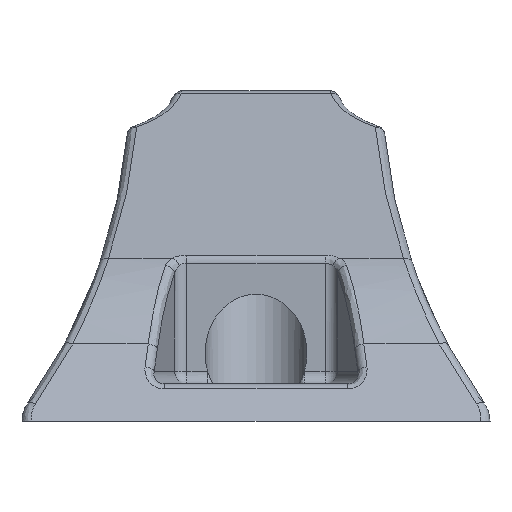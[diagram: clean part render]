
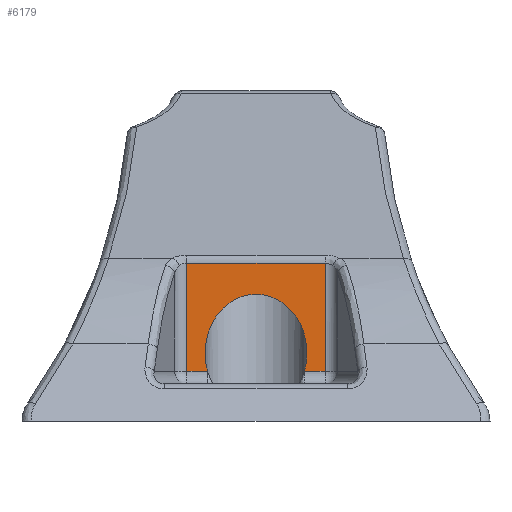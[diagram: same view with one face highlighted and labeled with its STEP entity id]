
A CAD part, left-side view. The second image highlights one B-rep face of the part: STEP entity #6179.
In plain terms, the highlighted planar face has unit normal (-1, 0, 0).
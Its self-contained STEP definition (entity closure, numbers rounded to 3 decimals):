
#1258 = CYLINDRICAL_SURFACE('',#1259,8.05);
#1259 = AXIS2_PLACEMENT_3D('',#1260,#1261,#1262);
#1260 = CARTESIAN_POINT('',(14.893,0.,52.567));
#1261 = DIRECTION('',(0.866,0.,0.5));
#1262 = DIRECTION('',(0.,1.,0.));
#1728 = CYLINDRICAL_SURFACE('',#1729,1.5);
#1729 = AXIS2_PLACEMENT_3D('',#1730,#1731,#1732);
#1730 = CARTESIAN_POINT('',(-24.796,10.938,
    42.989));
#1731 = DIRECTION('',(0.,-1.,0.));
#1732 = DIRECTION('',(-0.5,0.,0.866));
#3002 = EDGE_CURVE('',#3003,#3005,#3007,.T.);
#3003 = VERTEX_POINT('',#3004);
#3004 = CARTESIAN_POINT('',(-26.296,7.652,25.9
    ));
#3005 = VERTEX_POINT('',#3006);
#3006 = CARTESIAN_POINT('',(-26.296,8.05,28.786));
#3007 = SURFACE_CURVE('',#3008,(#3013,#3023),.PCURVE_S1.);
#3008 = ELLIPSE('',#3009,9.295,8.05);
#3009 = AXIS2_PLACEMENT_3D('',#3010,#3011,#3012);
#3010 = CARTESIAN_POINT('',(-26.296,0.,28.786));
#3011 = DIRECTION('',(1.,0.,-0.));
#3012 = DIRECTION('',(0.,0.,1.));
#3013 = PCURVE('',#1258,#3014);
#3014 = DEFINITIONAL_REPRESENTATION('',(#3015),#3022);
#3015 = B_SPLINE_CURVE_WITH_KNOTS('',5,(#3016,#3017,#3018,#3019,#3020,
    #3021),.UNSPECIFIED.,.F.,.F.,(6,6),(4.16,4.712),
  .PIECEWISE_BEZIER_KNOTS.);
#3016 = CARTESIAN_POINT('',(5.731,-50.));
#3017 = CARTESIAN_POINT('',(5.841,-49.563));
#3018 = CARTESIAN_POINT('',(5.952,-49.089));
#3019 = CARTESIAN_POINT('',(6.062,-48.588));
#3020 = CARTESIAN_POINT('',(6.173,-48.074));
#3021 = CARTESIAN_POINT('',(6.283,-47.561));
#3022 = ( GEOMETRIC_REPRESENTATION_CONTEXT(2) 
PARAMETRIC_REPRESENTATION_CONTEXT() REPRESENTATION_CONTEXT('2D SPACE',''
  ) );
#3023 = PCURVE('',#3024,#3029);
#3024 = PLANE('',#3025);
#3025 = AXIS2_PLACEMENT_3D('',#3026,#3027,#3028);
#3026 = CARTESIAN_POINT('',(-26.296,-12.5,78.));
#3027 = DIRECTION('',(1.,0.,0.));
#3028 = DIRECTION('',(0.,1.,0.));
#3029 = DEFINITIONAL_REPRESENTATION('',(#3030),#3034);
#3030 = ELLIPSE('',#3031,9.295,8.05);
#3031 = AXIS2_PLACEMENT_2D('',#3032,#3033);
#3032 = CARTESIAN_POINT('',(12.5,-49.214));
#3033 = DIRECTION('',(0.,1.));
#3034 = ( GEOMETRIC_REPRESENTATION_CONTEXT(2) 
PARAMETRIC_REPRESENTATION_CONTEXT() REPRESENTATION_CONTEXT('2D SPACE',''
  ) );
#3059 = EDGE_CURVE('',#3005,#3060,#3062,.T.);
#3060 = VERTEX_POINT('',#3061);
#3061 = CARTESIAN_POINT('',(-26.296,-7.652,25.9));
#3062 = SURFACE_CURVE('',#3063,(#3068,#3088),.PCURVE_S1.);
#3063 = ELLIPSE('',#3064,9.295,8.05);
#3064 = AXIS2_PLACEMENT_3D('',#3065,#3066,#3067);
#3065 = CARTESIAN_POINT('',(-26.296,0.,28.786));
#3066 = DIRECTION('',(1.,0.,-0.));
#3067 = DIRECTION('',(0.,0.,1.));
#3068 = PCURVE('',#1258,#3069);
#3069 = DEFINITIONAL_REPRESENTATION('',(#3070),#3087);
#3070 = B_SPLINE_CURVE_WITH_KNOTS('',8,(#3071,#3072,#3073,#3074,#3075,
    #3076,#3077,#3078,#3079,#3080,#3081,#3082,#3083,#3084,#3085,#3086),
  .UNSPECIFIED.,.F.,.F.,(9,7,9),(4.712,6.559,
    8.407),.UNSPECIFIED.);
#3071 = CARTESIAN_POINT('',(0.,-47.561));
#3072 = CARTESIAN_POINT('',(0.231,-46.488));
#3073 = CARTESIAN_POINT('',(0.462,-45.415));
#3074 = CARTESIAN_POINT('',(0.693,-44.429));
#3075 = CARTESIAN_POINT('',(0.924,-43.617));
#3076 = CARTESIAN_POINT('',(1.154,-43.052));
#3077 = CARTESIAN_POINT('',(1.385,-42.776));
#3078 = CARTESIAN_POINT('',(1.616,-42.797));
#3079 = CARTESIAN_POINT('',(2.078,-43.382));
#3080 = CARTESIAN_POINT('',(2.309,-43.947));
#3081 = CARTESIAN_POINT('',(2.54,-44.761));
#3082 = CARTESIAN_POINT('',(2.771,-45.769));
#3083 = CARTESIAN_POINT('',(3.001,-46.888));
#3084 = CARTESIAN_POINT('',(3.232,-48.025));
#3085 = CARTESIAN_POINT('',(3.463,-49.087));
#3086 = CARTESIAN_POINT('',(3.694,-50.));
#3087 = ( GEOMETRIC_REPRESENTATION_CONTEXT(2) 
PARAMETRIC_REPRESENTATION_CONTEXT() REPRESENTATION_CONTEXT('2D SPACE',''
  ) );
#3088 = PCURVE('',#3024,#3089);
#3089 = DEFINITIONAL_REPRESENTATION('',(#3090),#3094);
#3090 = ELLIPSE('',#3091,9.295,8.05);
#3091 = AXIS2_PLACEMENT_2D('',#3092,#3093);
#3092 = CARTESIAN_POINT('',(12.5,-49.214));
#3093 = DIRECTION('',(0.,1.));
#3094 = ( GEOMETRIC_REPRESENTATION_CONTEXT(2) 
PARAMETRIC_REPRESENTATION_CONTEXT() REPRESENTATION_CONTEXT('2D SPACE',''
  ) );
#4186 = VERTEX_POINT('',#4187);
#4187 = CARTESIAN_POINT('',(-26.296,-10.938,
    42.989));
#4257 = CYLINDRICAL_SURFACE('',#4258,2.);
#4258 = AXIS2_PLACEMENT_3D('',#4259,#4260,#4261);
#4259 = CARTESIAN_POINT('',(-28.296,-10.938,
    43.855));
#4260 = DIRECTION('',(-0.,-0.,-1.));
#4261 = DIRECTION('',(0.243,-0.97,0.));
#4350 = VERTEX_POINT('',#4351);
#4351 = CARTESIAN_POINT('',(-26.296,10.938,
    42.989));
#4377 = EDGE_CURVE('',#4350,#4186,#4378,.T.);
#4378 = SURFACE_CURVE('',#4379,(#4383,#4390),.PCURVE_S1.);
#4379 = LINE('',#4380,#4381);
#4380 = CARTESIAN_POINT('',(-26.296,10.938,
    42.989));
#4381 = VECTOR('',#4382,1.);
#4382 = DIRECTION('',(0.,-1.,0.));
#4383 = PCURVE('',#1728,#4384);
#4384 = DEFINITIONAL_REPRESENTATION('',(#4385),#4389);
#4385 = LINE('',#4386,#4387);
#4386 = CARTESIAN_POINT('',(1.047,0.));
#4387 = VECTOR('',#4388,1.);
#4388 = DIRECTION('',(0.,1.));
#4389 = ( GEOMETRIC_REPRESENTATION_CONTEXT(2) 
PARAMETRIC_REPRESENTATION_CONTEXT() REPRESENTATION_CONTEXT('2D SPACE',''
  ) );
#4390 = PCURVE('',#3024,#4391);
#4391 = DEFINITIONAL_REPRESENTATION('',(#4392),#4396);
#4392 = LINE('',#4393,#4394);
#4393 = CARTESIAN_POINT('',(23.438,-35.011));
#4394 = VECTOR('',#4395,1.);
#4395 = DIRECTION('',(-1.,0.));
#4396 = ( GEOMETRIC_REPRESENTATION_CONTEXT(2) 
PARAMETRIC_REPRESENTATION_CONTEXT() REPRESENTATION_CONTEXT('2D SPACE',''
  ) );
#4523 = CYLINDRICAL_SURFACE('',#4524,2.);
#4524 = AXIS2_PLACEMENT_3D('',#4525,#4526,#4527);
#4525 = CARTESIAN_POINT('',(-28.296,10.938,
    43.855));
#4526 = DIRECTION('',(-0.,-0.,-1.));
#4527 = DIRECTION('',(1.,0.,0.));
#6179 = ADVANCED_FACE('',(#6180),#3024,.F.);
#6180 = FACE_BOUND('',#6181,.F.);
#6181 = EDGE_LOOP('',(#6182,#6205,#6206,#6229,#6255,#6256,#6257));
#6182 = ORIENTED_EDGE('',*,*,#6183,.F.);
#6183 = EDGE_CURVE('',#4350,#6184,#6186,.T.);
#6184 = VERTEX_POINT('',#6185);
#6185 = CARTESIAN_POINT('',(-26.296,10.938,25.9));
#6186 = SURFACE_CURVE('',#6187,(#6191,#6198),.PCURVE_S1.);
#6187 = LINE('',#6188,#6189);
#6188 = CARTESIAN_POINT('',(-26.296,10.938,
    43.855));
#6189 = VECTOR('',#6190,1.);
#6190 = DIRECTION('',(-0.,-0.,-1.));
#6191 = PCURVE('',#3024,#6192);
#6192 = DEFINITIONAL_REPRESENTATION('',(#6193),#6197);
#6193 = LINE('',#6194,#6195);
#6194 = CARTESIAN_POINT('',(23.438,-34.145));
#6195 = VECTOR('',#6196,1.);
#6196 = DIRECTION('',(0.,-1.));
#6197 = ( GEOMETRIC_REPRESENTATION_CONTEXT(2) 
PARAMETRIC_REPRESENTATION_CONTEXT() REPRESENTATION_CONTEXT('2D SPACE',''
  ) );
#6198 = PCURVE('',#4523,#6199);
#6199 = DEFINITIONAL_REPRESENTATION('',(#6200),#6204);
#6200 = LINE('',#6201,#6202);
#6201 = CARTESIAN_POINT('',(-0.,0.));
#6202 = VECTOR('',#6203,1.);
#6203 = DIRECTION('',(-0.,1.));
#6204 = ( GEOMETRIC_REPRESENTATION_CONTEXT(2) 
PARAMETRIC_REPRESENTATION_CONTEXT() REPRESENTATION_CONTEXT('2D SPACE',''
  ) );
#6205 = ORIENTED_EDGE('',*,*,#4377,.T.);
#6206 = ORIENTED_EDGE('',*,*,#6207,.T.);
#6207 = EDGE_CURVE('',#4186,#6208,#6210,.T.);
#6208 = VERTEX_POINT('',#6209);
#6209 = CARTESIAN_POINT('',(-26.296,-10.938,25.9));
#6210 = SURFACE_CURVE('',#6211,(#6215,#6222),.PCURVE_S1.);
#6211 = LINE('',#6212,#6213);
#6212 = CARTESIAN_POINT('',(-26.296,-10.938,
    43.855));
#6213 = VECTOR('',#6214,1.);
#6214 = DIRECTION('',(-0.,-0.,-1.));
#6215 = PCURVE('',#3024,#6216);
#6216 = DEFINITIONAL_REPRESENTATION('',(#6217),#6221);
#6217 = LINE('',#6218,#6219);
#6218 = CARTESIAN_POINT('',(1.562,-34.145));
#6219 = VECTOR('',#6220,1.);
#6220 = DIRECTION('',(0.,-1.));
#6221 = ( GEOMETRIC_REPRESENTATION_CONTEXT(2) 
PARAMETRIC_REPRESENTATION_CONTEXT() REPRESENTATION_CONTEXT('2D SPACE',''
  ) );
#6222 = PCURVE('',#4257,#6223);
#6223 = DEFINITIONAL_REPRESENTATION('',(#6224),#6228);
#6224 = LINE('',#6225,#6226);
#6225 = CARTESIAN_POINT('',(-1.326,0.));
#6226 = VECTOR('',#6227,1.);
#6227 = DIRECTION('',(-0.,1.));
#6228 = ( GEOMETRIC_REPRESENTATION_CONTEXT(2) 
PARAMETRIC_REPRESENTATION_CONTEXT() REPRESENTATION_CONTEXT('2D SPACE',''
  ) );
#6229 = ORIENTED_EDGE('',*,*,#6230,.T.);
#6230 = EDGE_CURVE('',#6208,#3060,#6231,.T.);
#6231 = SURFACE_CURVE('',#6232,(#6236,#6243),.PCURVE_S1.);
#6232 = LINE('',#6233,#6234);
#6233 = CARTESIAN_POINT('',(-26.296,-12.5,25.9));
#6234 = VECTOR('',#6235,1.);
#6235 = DIRECTION('',(0.,1.,0.));
#6236 = PCURVE('',#3024,#6237);
#6237 = DEFINITIONAL_REPRESENTATION('',(#6238),#6242);
#6238 = LINE('',#6239,#6240);
#6239 = CARTESIAN_POINT('',(0.,-52.1));
#6240 = VECTOR('',#6241,1.);
#6241 = DIRECTION('',(1.,0.));
#6242 = ( GEOMETRIC_REPRESENTATION_CONTEXT(2) 
PARAMETRIC_REPRESENTATION_CONTEXT() REPRESENTATION_CONTEXT('2D SPACE',''
  ) );
#6243 = PCURVE('',#6244,#6249);
#6244 = CYLINDRICAL_SURFACE('',#6245,2.);
#6245 = AXIS2_PLACEMENT_3D('',#6246,#6247,#6248);
#6246 = CARTESIAN_POINT('',(-28.296,-12.5,25.9));
#6247 = DIRECTION('',(0.,1.,0.));
#6248 = DIRECTION('',(1.,0.,0.));
#6249 = DEFINITIONAL_REPRESENTATION('',(#6250),#6254);
#6250 = LINE('',#6251,#6252);
#6251 = CARTESIAN_POINT('',(0.,0.));
#6252 = VECTOR('',#6253,1.);
#6253 = DIRECTION('',(0.,1.));
#6254 = ( GEOMETRIC_REPRESENTATION_CONTEXT(2) 
PARAMETRIC_REPRESENTATION_CONTEXT() REPRESENTATION_CONTEXT('2D SPACE',''
  ) );
#6255 = ORIENTED_EDGE('',*,*,#3059,.F.);
#6256 = ORIENTED_EDGE('',*,*,#3002,.F.);
#6257 = ORIENTED_EDGE('',*,*,#6258,.T.);
#6258 = EDGE_CURVE('',#3003,#6184,#6259,.T.);
#6259 = SURFACE_CURVE('',#6260,(#6264,#6271),.PCURVE_S1.);
#6260 = LINE('',#6261,#6262);
#6261 = CARTESIAN_POINT('',(-26.296,-12.5,25.9));
#6262 = VECTOR('',#6263,1.);
#6263 = DIRECTION('',(0.,1.,0.));
#6264 = PCURVE('',#3024,#6265);
#6265 = DEFINITIONAL_REPRESENTATION('',(#6266),#6270);
#6266 = LINE('',#6267,#6268);
#6267 = CARTESIAN_POINT('',(0.,-52.1));
#6268 = VECTOR('',#6269,1.);
#6269 = DIRECTION('',(1.,0.));
#6270 = ( GEOMETRIC_REPRESENTATION_CONTEXT(2) 
PARAMETRIC_REPRESENTATION_CONTEXT() REPRESENTATION_CONTEXT('2D SPACE',''
  ) );
#6271 = PCURVE('',#6272,#6277);
#6272 = CYLINDRICAL_SURFACE('',#6273,2.);
#6273 = AXIS2_PLACEMENT_3D('',#6274,#6275,#6276);
#6274 = CARTESIAN_POINT('',(-28.296,-12.5,25.9));
#6275 = DIRECTION('',(0.,1.,0.));
#6276 = DIRECTION('',(1.,0.,0.));
#6277 = DEFINITIONAL_REPRESENTATION('',(#6278),#6282);
#6278 = LINE('',#6279,#6280);
#6279 = CARTESIAN_POINT('',(0.,0.));
#6280 = VECTOR('',#6281,1.);
#6281 = DIRECTION('',(0.,1.));
#6282 = ( GEOMETRIC_REPRESENTATION_CONTEXT(2) 
PARAMETRIC_REPRESENTATION_CONTEXT() REPRESENTATION_CONTEXT('2D SPACE',''
  ) );
